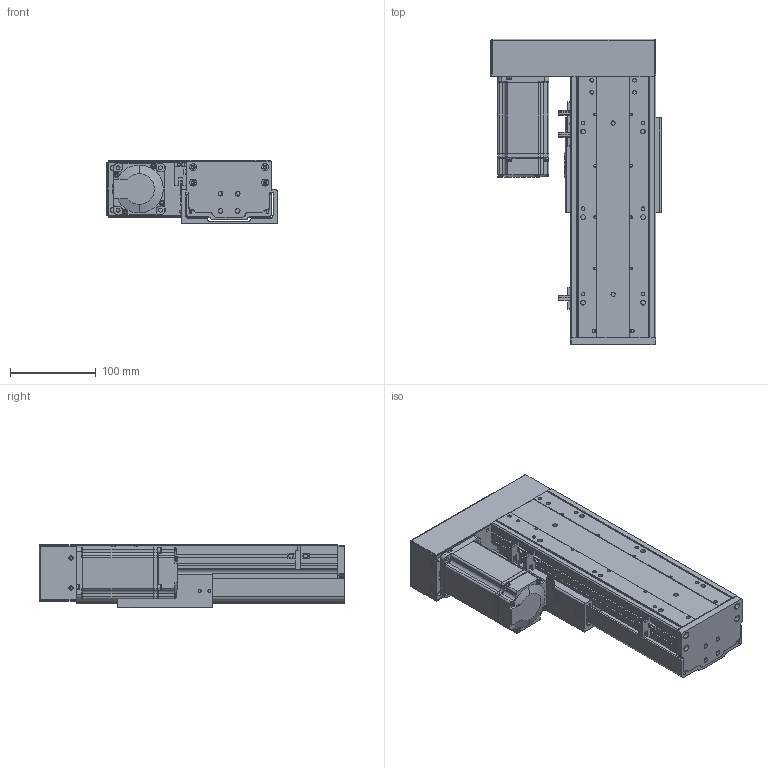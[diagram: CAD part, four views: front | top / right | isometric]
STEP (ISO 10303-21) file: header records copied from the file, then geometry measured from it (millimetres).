
FILE_DESCRIPTION (( 'STEP AP203' ), '1' );
FILE_NAME ('RY100FBS-L1610-300-LK(15双轨）.SLDASM_100.step', '2021-02-23T01:49:03', ( '盈信电脑' ), ( '东莞市道滘镇水果街19号' ), 'SwSTEP 2.0', 'SolidWorks 2012', '' );
FILE_SCHEMA (( 'CONFIG_CONTROL_DESIGN' ));
Length unit declared in the file: millimetre
Products named in the file (14): RY100FBS-L1610-300-LK(15双轨）.SLDASM_100; RY100FBS-酘衵殏萇儂啣; RY100FBS-后盖板(15双轨）; RY100FBS-酘衵殏萇儂欶; 覜茼ん672; 15; RY100FBS-嫖萇覜茼え; 侂狟400W侜督萇儂; 滅袉蝶18-15; 滅袉蝶18-24; RY100FBS-铝滑块（16丝杆）; RY100FBS-转折支撑座（15双轨）; RY100FBS-300蛌殏奻裔啣-LK_100; RY100FBS-300蛌殏菁釱-LK_100
Assembly tree (15 placements, depth 3):
  RY100FBS-L1610-300-LK(15双轨）.SLDASM_100
    RY100FBS-300蛌殏菁釱-LK_100
    RY100FBS-300蛌殏奻裔啣-LK_100
    RY100FBS-转折支撑座（15双轨）
    滅袉蝶18-24
    滅袉蝶18-15
    RY100FBS-铝滑块（16丝杆）
    覜茼ん672  x3
    RY100FBS-嫖萇覜茼え
    侂狟400W侜督萇儂
      15
    RY100FBS-后盖板(15双轨）
    RY100FBS-酘衵殏萇儂啣
    RY100FBS-酘衵殏萇儂欶
Bounding box: 198.75 x 357 x 74 mm (x, y, z)
Volume: 1491455.3 mm3; surface area: 507742.2 mm2
Topology: 14 solids, 14 shells, 1507 faces, 4196 edges, 2714 vertices
Faces by surface type: cylinder 679, plane 676, cone 126, bspline 26
Entity records: 46519 total; most frequent: CARTESIAN_POINT 9876, DIRECTION 7435, ORIENTED_EDGE 7268, EDGE_CURVE 3634, AXIS2_PLACEMENT_3D 2653, VERTEX_POINT 2394, LINE 2129, VECTOR 2129
